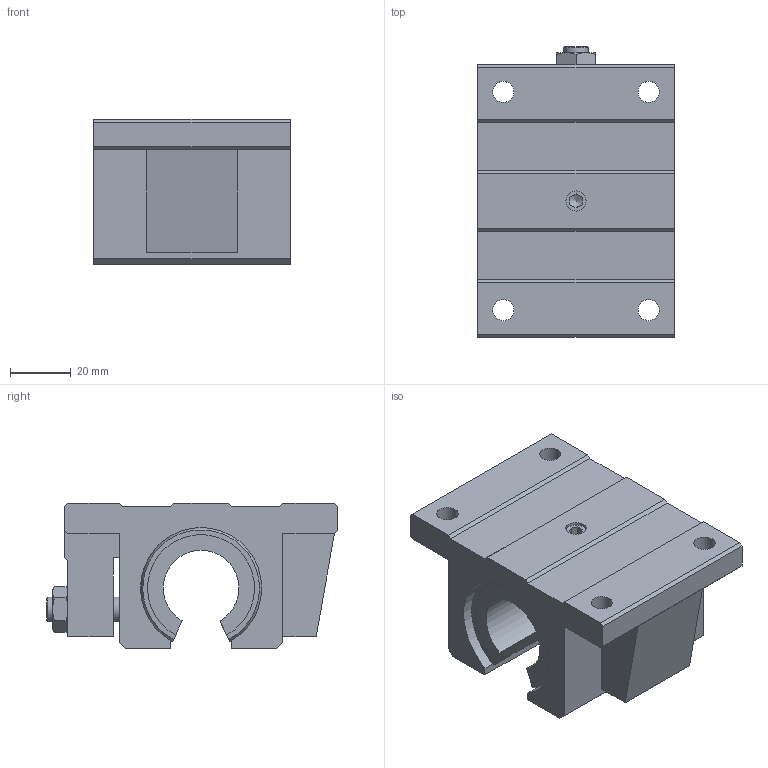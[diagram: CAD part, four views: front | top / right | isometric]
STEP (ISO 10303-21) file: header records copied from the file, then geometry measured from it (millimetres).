
FILE_DESCRIPTION((''),'2;1');
FILE_NAME('D:\製品 (図面)\カタログ用3D\GT25H.stp','2010-06-07T16:11:16',('Tsuchiya'),(''),'Autodesk Inventor 10','Autodesk Inventor 10','');
FILE_SCHEMA(('AUTOMOTIVE_DESIGN { 1 0 10303 214 1 1 1 1 }'));
Length unit declared in the file: millimetre
Products named in the file (1): GT25H
Bounding box: 65 x 96 x 48 mm (x, y, z)
Volume: 173407.6 mm3; surface area: 32839.1 mm2
Topology: 1 solids, 1 shells, 111 faces, 306 edges, 196 vertices
Faces by surface type: plane 71, cylinder 19, cone 15, bspline 4, torus 2
Full cylindrical faces by diameter (mm): 7 x2, 8 x2
Entity records: 3456 total; most frequent: CARTESIAN_POINT 752, ORIENTED_EDGE 578, DIRECTION 524, EDGE_CURVE 289, VECTOR 190, LINE 190, VERTEX_POINT 189, AXIS2_PLACEMENT_3D 167
